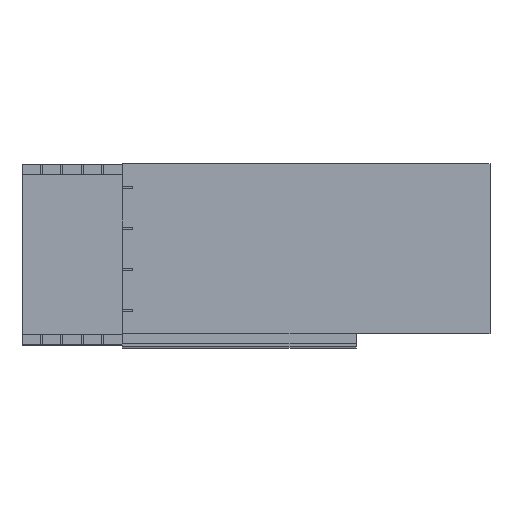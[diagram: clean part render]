
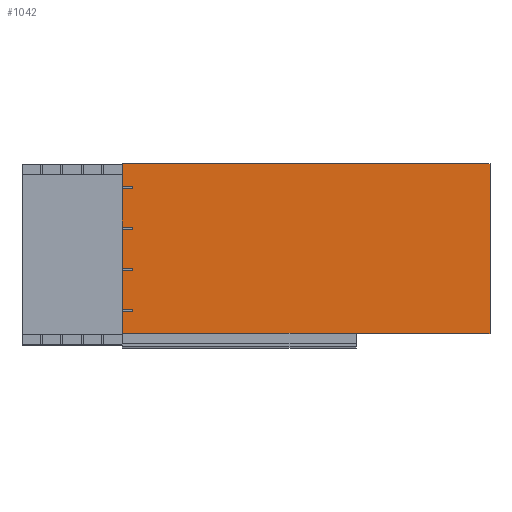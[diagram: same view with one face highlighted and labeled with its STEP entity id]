
A CAD part, top view. The second image highlights one B-rep face of the part: STEP entity #1042.
In plain terms, the highlighted planar face has unit normal (0, 0, 1).
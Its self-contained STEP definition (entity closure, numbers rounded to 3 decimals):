
#1042=ADVANCED_FACE('',(#1774),#11159,.T.);
#1774=FACE_OUTER_BOUND('',#2508,.T.);
#2508=EDGE_LOOP('',(#5928,#5929,#5930,#5931));
#5928=ORIENTED_EDGE('',*,*,#7655,.T.);
#5929=ORIENTED_EDGE('',*,*,#7656,.T.);
#5930=ORIENTED_EDGE('',*,*,#7657,.F.);
#5931=ORIENTED_EDGE('',*,*,#7653,.F.);
#7653=EDGE_CURVE('',#10564,#10565,#9417,.T.);
#7655=EDGE_CURVE('',#10564,#10566,#9419,.T.);
#7656=EDGE_CURVE('',#10566,#10567,#9420,.T.);
#7657=EDGE_CURVE('',#10565,#10567,#9421,.T.);
#9417=B_SPLINE_CURVE_WITH_KNOTS('',1,(#29634,#29635),.UNSPECIFIED.,.F.,
 .F.,(2,2),(0.,254.),.UNSPECIFIED.);
#9419=B_SPLINE_CURVE_WITH_KNOTS('',1,(#29638,#29639),.UNSPECIFIED.,.F.,
 .F.,(2,2),(565.838,1115.838),.UNSPECIFIED.);
#9420=B_SPLINE_CURVE_WITH_KNOTS('',1,(#29640,#29641),.UNSPECIFIED.,.F.,
 .F.,(2,2),(0.,254.),.UNSPECIFIED.);
#9421=B_SPLINE_CURVE_WITH_KNOTS('',1,(#29642,#29643),.UNSPECIFIED.,.F.,
 .F.,(2,2),(565.838,1115.838),.UNSPECIFIED.);
#10564=VERTEX_POINT('',#29620);
#10565=VERTEX_POINT('',#29621);
#10566=VERTEX_POINT('',#29622);
#10567=VERTEX_POINT('',#29623);
#11159=PLANE('',#11843);
#11843=AXIS2_PLACEMENT_3D('',#29612,#12443,$);
#12443=DIRECTION('',(0.,0.,1.));
#29612=CARTESIAN_POINT('',(617.,0.,1569.985));
#29620=CARTESIAN_POINT('',(617.,0.,1569.985));
#29621=CARTESIAN_POINT('',(617.,-254.,1569.985));
#29622=CARTESIAN_POINT('',(67.,0.,1569.985));
#29623=CARTESIAN_POINT('',(67.,-254.,1569.985));
#29634=CARTESIAN_POINT('',(617.,0.,1569.985));
#29635=CARTESIAN_POINT('',(617.,-254.,1569.985));
#29638=CARTESIAN_POINT('',(617.,0.,1569.985));
#29639=CARTESIAN_POINT('',(67.,0.,1569.985));
#29640=CARTESIAN_POINT('',(67.,0.,1569.985));
#29641=CARTESIAN_POINT('',(67.,-254.,1569.985));
#29642=CARTESIAN_POINT('',(617.,-254.,1569.985));
#29643=CARTESIAN_POINT('',(67.,-254.,1569.985));
